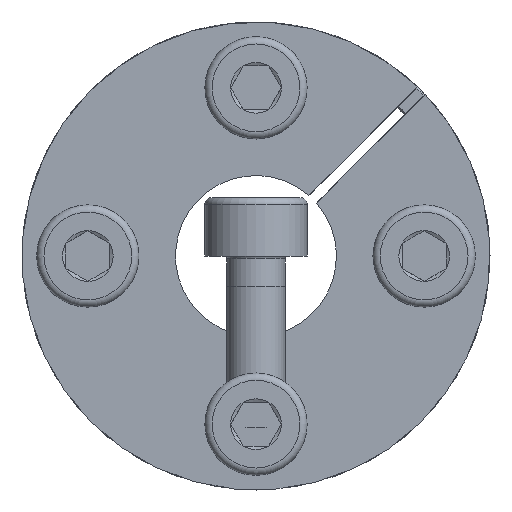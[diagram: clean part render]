
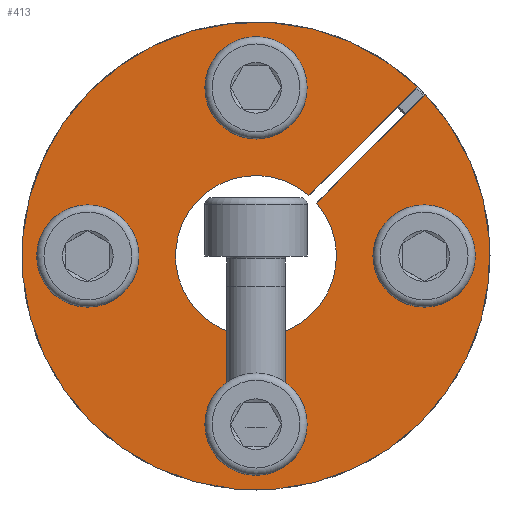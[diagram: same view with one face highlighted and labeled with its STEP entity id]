
A CAD part, front view. The second image highlights one B-rep face of the part: STEP entity #413.
In plain terms, the highlighted planar face has unit normal (0, -1, 0).
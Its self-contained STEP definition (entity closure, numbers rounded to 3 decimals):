
#413 = ADVANCED_FACE( '', ( #707, #708, #709, #710, #711 ), #712, .F. );
#707 = FACE_BOUND( '', #1015, .T. );
#708 = FACE_BOUND( '', #1016, .T. );
#709 = FACE_BOUND( '', #1017, .T. );
#710 = FACE_BOUND( '', #1018, .T. );
#711 = FACE_OUTER_BOUND( '', #1019, .T. );
#712 = PLANE( '', #1020 );
#1015 = EDGE_LOOP( '', ( #1434 ) );
#1016 = EDGE_LOOP( '', ( #1435 ) );
#1017 = EDGE_LOOP( '', ( #1436 ) );
#1018 = EDGE_LOOP( '', ( #1437 ) );
#1019 = EDGE_LOOP( '', ( #1438, #1439, #1440, #1441 ) );
#1020 = AXIS2_PLACEMENT_3D( '', #1442, #1443, #1444 );
#1434 = ORIENTED_EDGE( '', *, *, #2089, .T. );
#1435 = ORIENTED_EDGE( '', *, *, #2100, .T. );
#1436 = ORIENTED_EDGE( '', *, *, #2101, .T. );
#1437 = ORIENTED_EDGE( '', *, *, #2093, .T. );
#1438 = ORIENTED_EDGE( '', *, *, #2087, .T. );
#1439 = ORIENTED_EDGE( '', *, *, #2094, .T. );
#1440 = ORIENTED_EDGE( '', *, *, #2064, .T. );
#1441 = ORIENTED_EDGE( '', *, *, #2055, .F. );
#1442 = CARTESIAN_POINT( '', ( 0., 0., 16. ) );
#1443 = DIRECTION( '', ( 0., 1., 0. ) );
#1444 = DIRECTION( '', ( 0., 0., 1. ) );
#2055 = EDGE_CURVE( '', #2278, #2274, #2280, .T. );
#2064 = EDGE_CURVE( '', #2297, #2274, #2298, .T. );
#2087 = EDGE_CURVE( '', #2278, #2333, #2335, .T. );
#2089 = EDGE_CURVE( '', #2338, #2338, #2339, .T. );
#2093 = EDGE_CURVE( '', #2344, #2344, #2345, .T. );
#2094 = EDGE_CURVE( '', #2333, #2297, #2346, .T. );
#2100 = EDGE_CURVE( '', #2355, #2355, #2356, .T. );
#2101 = EDGE_CURVE( '', #2357, #2357, #2358, .T. );
#2274 = VERTEX_POINT( '', #2539 );
#2278 = VERTEX_POINT( '', #2544 );
#2280 = CIRCLE( '', #2547, 5.5 );
#2297 = VERTEX_POINT( '', #2572 );
#2298 = LINE( '', #2573, #2574 );
#2333 = VERTEX_POINT( '', #2638 );
#2335 = LINE( '', #2641, #2642 );
#2338 = VERTEX_POINT( '', #2645 );
#2339 = CIRCLE( '', #2646, 2. );
#2344 = VERTEX_POINT( '', #2651 );
#2345 = CIRCLE( '', #2652, 2. );
#2346 = CIRCLE( '', #2653, 16. );
#2355 = VERTEX_POINT( '', #2662 );
#2356 = CIRCLE( '', #2663, 2. );
#2357 = VERTEX_POINT( '', #2664 );
#2358 = CIRCLE( '', #2665, 2. );
#2539 = CARTESIAN_POINT( '', ( 4.145, 0., 3.615 ) );
#2544 = CARTESIAN_POINT( '', ( 3.615, 0., 4.145 ) );
#2547 = AXIS2_PLACEMENT_3D( '', #3000, #3001, #3002 );
#2572 = CARTESIAN_POINT( '', ( 11.576, 0., 11.045 ) );
#2573 = CARTESIAN_POINT( '', ( 11.579, 0., 11.049 ) );
#2574 = VECTOR( '', #3017, 1000. );
#2638 = CARTESIAN_POINT( '', ( 11.045, 0., 11.576 ) );
#2641 = CARTESIAN_POINT( '', ( 3.615, 0., 4.145 ) );
#2642 = VECTOR( '', #3042, 1000. );
#2645 = CARTESIAN_POINT( '', ( 2., 0., 11.5 ) );
#2646 = AXIS2_PLACEMENT_3D( '', #3046, #3047, #3048 );
#2651 = CARTESIAN_POINT( '', ( -11.5, 0., 2. ) );
#2652 = AXIS2_PLACEMENT_3D( '', #3058, #3059, #3060 );
#2653 = AXIS2_PLACEMENT_3D( '', #3061, #3062, #3063 );
#2662 = CARTESIAN_POINT( '', ( 11.5, 0., -2. ) );
#2663 = AXIS2_PLACEMENT_3D( '', #3079, #3080, #3081 );
#2664 = CARTESIAN_POINT( '', ( -2., 0., -11.5 ) );
#2665 = AXIS2_PLACEMENT_3D( '', #3082, #3083, #3084 );
#3000 = CARTESIAN_POINT( '', ( 0., 0., 0. ) );
#3001 = DIRECTION( '', ( 0., -1., 0. ) );
#3002 = DIRECTION( '', ( 0., 0., -1. ) );
#3017 = DIRECTION( '', ( -0.707, 0., -0.707 ) );
#3042 = DIRECTION( '', ( 0.707, 0., 0.707 ) );
#3046 = CARTESIAN_POINT( '', ( 0., 0., 11.5 ) );
#3047 = DIRECTION( '', ( 0., 1., 0. ) );
#3048 = DIRECTION( '', ( 1., 0., 0. ) );
#3058 = CARTESIAN_POINT( '', ( -11.5, 0., 0. ) );
#3059 = DIRECTION( '', ( 0., 1., 0. ) );
#3060 = DIRECTION( '', ( 0., 0., 1. ) );
#3061 = CARTESIAN_POINT( '', ( 0., 0., 0. ) );
#3062 = DIRECTION( '', ( 0., -1., 0. ) );
#3063 = DIRECTION( '', ( 0., 0., -1. ) );
#3079 = CARTESIAN_POINT( '', ( 11.5, 0., 0. ) );
#3080 = DIRECTION( '', ( 0., 1., 0. ) );
#3081 = DIRECTION( '', ( 0., 0., -1. ) );
#3082 = CARTESIAN_POINT( '', ( 0., 0., -11.5 ) );
#3083 = DIRECTION( '', ( 0., 1., 0. ) );
#3084 = DIRECTION( '', ( -1., 0., 0. ) );
